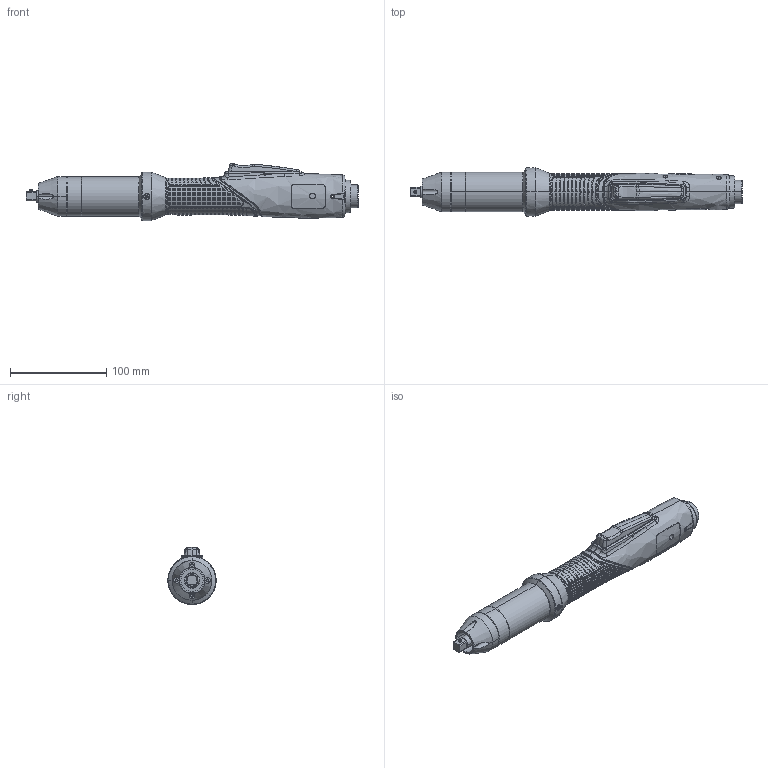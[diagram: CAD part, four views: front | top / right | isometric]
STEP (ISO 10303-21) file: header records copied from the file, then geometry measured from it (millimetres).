
FILE_DESCRIPTION (( 'STEP AP203' ), '1' );
FILE_NAME ('MDT3245,3264-Q-L.STEP', '2021-10-25T05:54:46', ( '' ), ( '' ), 'SwSTEP 2.0', 'SolidWorks 2020', '' );
FILE_SCHEMA (( 'CONFIG_CONTROL_DESIGN' ));
Products named in the file (1): MDT3245,3264-Q-L
Bounding box: 344.09 x 49.99 x 59.12 mm (x, y, z)
Surface area: 58916.9 mm2 (no closed solid volume)
Topology: 0 solids, 30 shells, 2650 faces, 7355 edges, 4989 vertices
Faces by surface type: plane 1707, bspline 653, cylinder 246, cone 44
Entity records: 145257 total; most frequent: CARTESIAN_POINT 90224, ORIENTED_EDGE 13417, EDGE_CURVE 7348, DIRECTION 6447, B_SPLINE_CURVE_WITH_KNOTS 5190, VERTEX_POINT 4989, EDGE_LOOP 3074, ADVANCED_FACE 2650
